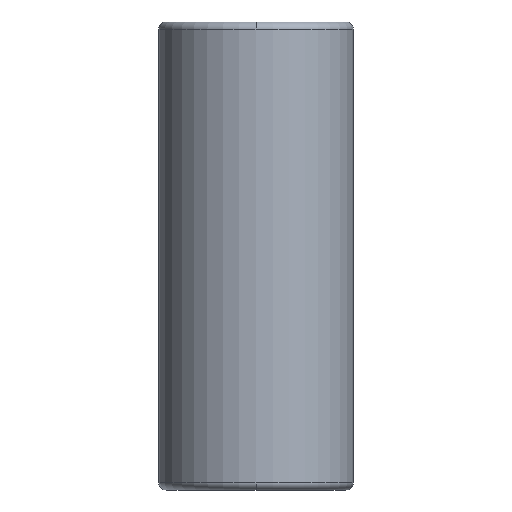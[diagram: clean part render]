
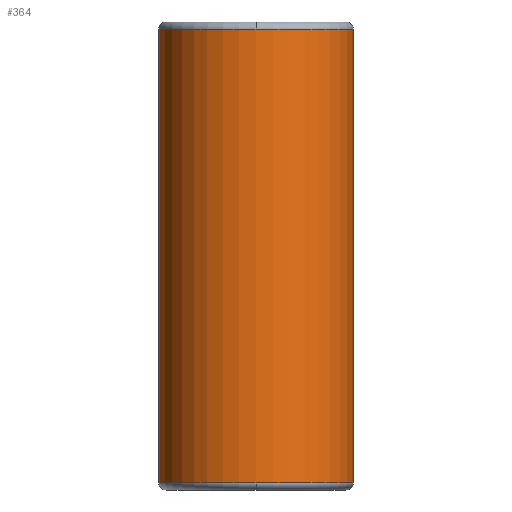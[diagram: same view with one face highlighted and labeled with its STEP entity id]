
A CAD part, front view. The second image highlights one B-rep face of the part: STEP entity #364.
In plain terms, the highlighted cylindrical face has radius 26.993 mm (diameter 53.986 mm), a partial arc.
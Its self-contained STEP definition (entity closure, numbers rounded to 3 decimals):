
#269=CARTESIAN_POINT('',(0.0,-26.993,128.0));
#270=VERTEX_POINT('',#269);
#296=CARTESIAN_POINT('',(-26.993,0.,128.0));
#297=VERTEX_POINT('',#296);
#305=CARTESIAN_POINT('',(0.0,0.,128.0));
#306=DIRECTION('',(0.0,0.0,1.0));
#307=DIRECTION('',(1.0,0.0,0.0));
#308=AXIS2_PLACEMENT_3D('',#305,#306,#307);
#309=CIRCLE('',#308,26.993);
#310=EDGE_CURVE('',#297,#270,#309,.T.);
#315=CARTESIAN_POINT('',(0.0,0.,65.0));
#316=DIRECTION('',(0.0,0.,1.0));
#317=DIRECTION('',(1.0,0.0,0.0));
#318=AXIS2_PLACEMENT_3D('',#315,#316,#317);
#319=CYLINDRICAL_SURFACE('',#318,26.993);
#320=CARTESIAN_POINT('',(26.993,0.,128.0));
#321=VERTEX_POINT('',#320);
#322=CARTESIAN_POINT('',(26.993,0.,2.));
#323=VERTEX_POINT('',#322);
#324=CARTESIAN_POINT('',(26.993,0.,128.0));
#325=DIRECTION('',(0.0,0.0,-1.0));
#326=VECTOR('',#325,126.0);
#327=LINE('',#324,#326);
#328=EDGE_CURVE('',#321,#323,#327,.T.);
#329=ORIENTED_EDGE('',*,*,#328,.F.);
#330=CARTESIAN_POINT('',(0.0,0.,128.0));
#331=DIRECTION('',(0.0,0.0,1.0));
#332=DIRECTION('',(1.0,0.0,0.0));
#333=AXIS2_PLACEMENT_3D('',#330,#331,#332);
#334=CIRCLE('',#333,26.993);
#335=EDGE_CURVE('',#270,#321,#334,.T.);
#336=ORIENTED_EDGE('',*,*,#335,.F.);
#337=ORIENTED_EDGE('',*,*,#310,.F.);
#338=CARTESIAN_POINT('',(-26.993,0.,2.0));
#339=VERTEX_POINT('',#338);
#340=CARTESIAN_POINT('',(-26.993,0.,128.0));
#341=DIRECTION('',(0.0,0.0,-1.0));
#342=VECTOR('',#341,126.0);
#343=LINE('',#340,#342);
#344=EDGE_CURVE('',#297,#339,#343,.T.);
#345=ORIENTED_EDGE('',*,*,#344,.T.);
#346=CARTESIAN_POINT('',(0.0,-26.993,2.));
#347=VERTEX_POINT('',#346);
#348=CARTESIAN_POINT('',(0.0,0.,2.0));
#349=DIRECTION('',(0.0,0.0,1.0));
#350=DIRECTION('',(1.0,0.0,0.0));
#351=AXIS2_PLACEMENT_3D('',#348,#349,#350);
#352=CIRCLE('',#351,26.993);
#353=EDGE_CURVE('',#339,#347,#352,.T.);
#354=ORIENTED_EDGE('',*,*,#353,.T.);
#355=CARTESIAN_POINT('',(0.0,0.,2.0));
#356=DIRECTION('',(0.0,0.0,1.0));
#357=DIRECTION('',(1.0,0.0,0.0));
#358=AXIS2_PLACEMENT_3D('',#355,#356,#357);
#359=CIRCLE('',#358,26.993);
#360=EDGE_CURVE('',#347,#323,#359,.T.);
#361=ORIENTED_EDGE('',*,*,#360,.T.);
#362=EDGE_LOOP('',(#329,#336,#337,#345,#354,#361));
#363=FACE_OUTER_BOUND('',#362,.T.);
#364=ADVANCED_FACE('',(#363),#319,.T.);
